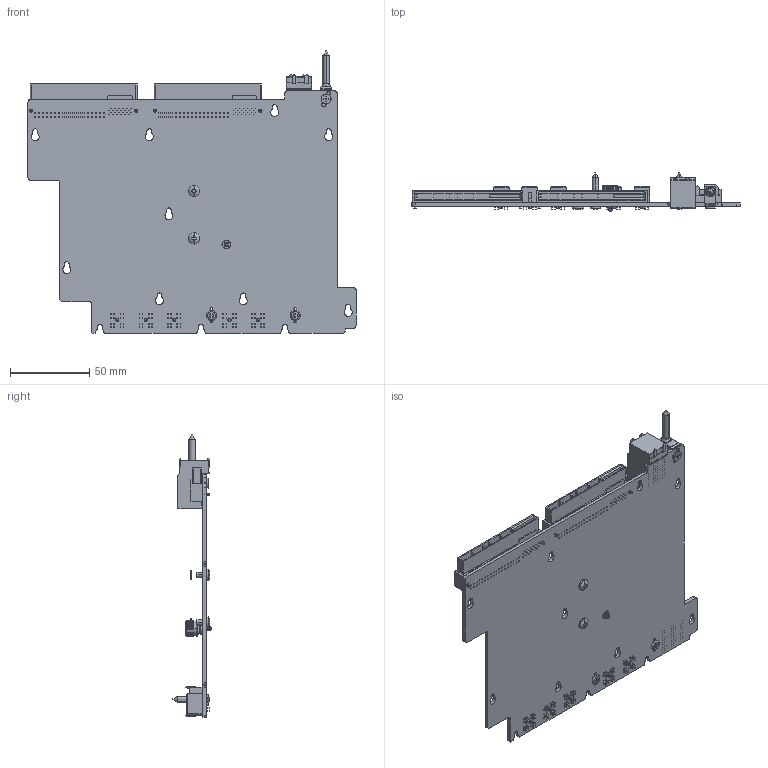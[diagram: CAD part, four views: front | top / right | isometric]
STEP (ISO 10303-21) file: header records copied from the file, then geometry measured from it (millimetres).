
FILE_DESCRIPTION((''),'2;1');
FILE_NAME('S5BN-PDB-BOARD-ASSY_ASM','2018-09-20T',('10608103'),(''),'PRO/ENGINEER BY PARAMETRIC TECHNOLOGY CORPORATION, 2015240','PRO/ENGINEER BY PARAMETRIC TECHNOLOGY CORPORATION, 2015240','');
FILE_SCHEMA(('CONFIG_CONTROL_DESIGN'));
Products named in the file (14): S5BN-PDB-BOARD-PCB; 29-159-202-6-RL_FASTENED; FBF06263010_ASM; 10125559-10X; S9N-DFHD01MS073; SCREW_M30L40_NWB; S9N-HANDLE-60-60030-4PC-01; S9N-10130566C; DFHD01MR025_OLD; S9N-I10028916XXXXPXX; SCREW_M30L50_NWI; SCREW_E6_32L60_NWB; S9N-10130248-001LFC; S5BN-PDB-BOARD-ASSY_ASM
Assembly tree (21 placements, depth 3):
  S5BN-PDB-BOARD-ASSY_ASM
    S5BN-PDB-BOARD-PCB
    FBF06263010_ASM
      29-159-202-6-RL_FASTENED
    10125559-10X
    S9N-DFHD01MS073  x2
    SCREW_M30L40_NWB  x2
    S9N-HANDLE-60-60030-4PC-01
    S9N-10130566C
    DFHD01MR025_OLD
    S9N-I10028916XXXXPXX  x5
    SCREW_M30L50_NWI
    SCREW_E6_32L60_NWB  x2
    S9N-10130248-001LFC  x2
Bounding box: 207.5 x 24.3 x 178.5 mm (x, y, z)
Volume: 94633.3 mm3; surface area: 83937.7 mm2
Topology: 21 solids, 21 shells, 5287 faces, 13729 edges, 8858 vertices
Faces by surface type: plane 3548, cylinder 1549, cone 92, torus 46, bspline 37, sphere 10, extrusion 5
Entity records: 92881 total; most frequent: CARTESIAN_POINT 23412, DIRECTION 14352, ORIENTED_EDGE 14282, EDGE_CURVE 7141, VECTOR 4804, LINE 4799, AXIS2_PLACEMENT_3D 4774, VERTEX_POINT 4679
